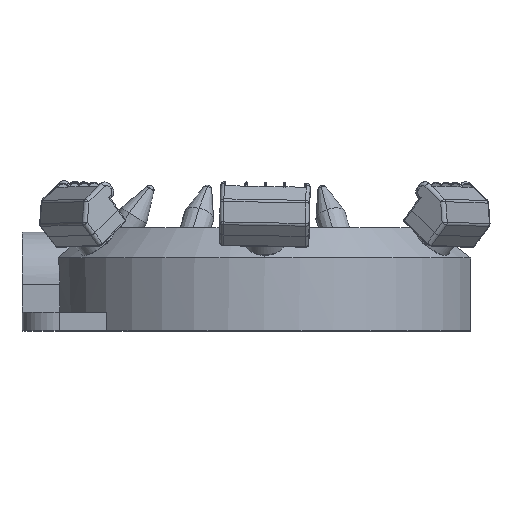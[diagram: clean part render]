
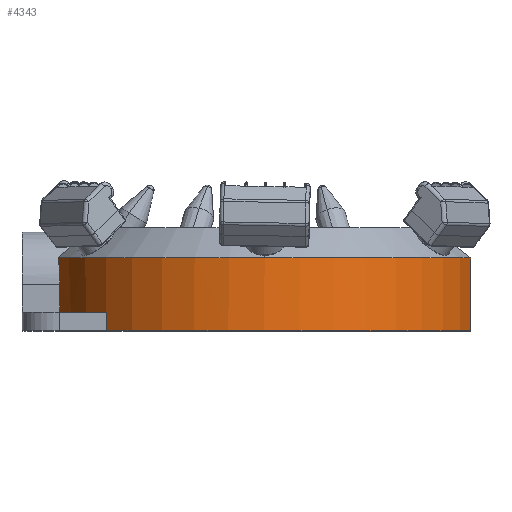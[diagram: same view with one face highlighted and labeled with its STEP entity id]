
A CAD part, top view. The second image highlights one B-rep face of the part: STEP entity #4343.
In plain terms, the highlighted cylindrical face has radius 56.6 mm (diameter 113.2 mm), a partial arc.
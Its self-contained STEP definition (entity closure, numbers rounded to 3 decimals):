
#4233 = VERTEX_POINT ( 'NONE', #34398 ) ;
#4235 = EDGE_CURVE ( 'NONE', #4236, #4233, #34397, .T. ) ;
#4236 = VERTEX_POINT ( 'NONE', #34392 ) ;
#4278 = VERTEX_POINT ( 'NONE', #34513 ) ;
#4280 = EDGE_CURVE ( 'NONE', #4233, #4278, #34550, .T. ) ;
#4326 = ORIENTED_EDGE ( 'NONE', *, *, #4235, .T. ) ;
#4327 = ORIENTED_EDGE ( 'NONE', *, *, #4280, .T. ) ;
#4328 = ORIENTED_EDGE ( 'NONE', *, *, #4329, .T. ) ;
#4329 = EDGE_CURVE ( 'NONE', #4278, #4330, #34728, .T. ) ;
#4330 = VERTEX_POINT ( 'NONE', #34727 ) ;
#4331 = ORIENTED_EDGE ( 'NONE', *, *, #4332, .T. ) ;
#4332 = EDGE_CURVE ( 'NONE', #4330, #4333, #34726, .T. ) ;
#4333 = VERTEX_POINT ( 'NONE', #34714 ) ;
#4334 = ORIENTED_EDGE ( 'NONE', *, *, #4335, .F. ) ;
#4335 = EDGE_CURVE ( 'NONE', #4348, #4333, #34712, .T. ) ;
#4343 = ADVANCED_FACE ( 'NONE', ( #34700 ), #34701, .T. ) ;
#4344 = EDGE_LOOP ( 'NONE', ( #4345, #4349, #4352, #4326, #4327, #4328, #4331, #4334 ) ) ;
#4345 = ORIENTED_EDGE ( 'NONE', *, *, #4346, .F. ) ;
#4346 = EDGE_CURVE ( 'NONE', #4347, #4348, #34742, .T. ) ;
#4347 = VERTEX_POINT ( 'NONE', #34738 ) ;
#4348 = VERTEX_POINT ( 'NONE', #34737 ) ;
#4349 = ORIENTED_EDGE ( 'NONE', *, *, #4350, .F. ) ;
#4350 = EDGE_CURVE ( 'NONE', #4351, #4347, #34736, .T. ) ;
#4351 = VERTEX_POINT ( 'NONE', #34731 ) ;
#4352 = ORIENTED_EDGE ( 'NONE', *, *, #4353, .T. ) ;
#4353 = EDGE_CURVE ( 'NONE', #4351, #4236, #34730, .T. ) ;
#34392 = CARTESIAN_POINT ( 'NONE',  ( 84.847, 8.679, -2.091 ) ) ;
#34393 = DIRECTION ( 'NONE',  ( 0., 0., -1. ) ) ;
#34394 = DIRECTION ( 'NONE',  ( 0., -1., 0. ) ) ;
#34395 = CARTESIAN_POINT ( 'NONE',  ( 29.76, 8.679, -15.091 ) ) ;
#34396 = AXIS2_PLACEMENT_3D ( 'NONE', #34395, #34394, #34393 ) ;
#34397 = CIRCLE ( 'NONE', #34396, 56.6 ) ;
#34398 = CARTESIAN_POINT ( 'NONE',  ( 29.76, 8.679, 41.509 ) ) ;
#34513 = CARTESIAN_POINT ( 'NONE',  ( -25.531, 8.679, -2.988 ) ) ;
#34546 = DIRECTION ( 'NONE',  ( 0., 0., -1. ) ) ;
#34547 = DIRECTION ( 'NONE',  ( 0., -1., 0. ) ) ;
#34548 = CARTESIAN_POINT ( 'NONE',  ( 29.76, 8.679, -15.091 ) ) ;
#34549 = AXIS2_PLACEMENT_3D ( 'NONE', #34548, #34547, #34546 ) ;
#34550 = CIRCLE ( 'NONE', #34549, 56.6 ) ;
#34700 = FACE_OUTER_BOUND ( 'NONE', #4344, .T. ) ;
#34701 = CYLINDRICAL_SURFACE ( 'NONE', #34766, 56.6 ) ;
#34708 = DIRECTION ( 'NONE',  ( 0., 0., -1. ) ) ;
#34709 = DIRECTION ( 'NONE',  ( 0., -1., 0. ) ) ;
#34710 = CARTESIAN_POINT ( 'NONE',  ( 29.76, -5.833, -15.091 ) ) ;
#34711 = AXIS2_PLACEMENT_3D ( 'NONE', #34710, #34709, #34708 ) ;
#34712 = CIRCLE ( 'NONE', #34711, 56.6 ) ;
#34714 = CARTESIAN_POINT ( 'NONE',  ( -25.081, -5.833, -1.091 ) ) ;
#34715 = DIRECTION ( 'NONE',  ( 0., -1., 0. ) ) ;
#34716 = VECTOR ( 'NONE', #34715, 1000. ) ;
#34717 = CARTESIAN_POINT ( 'NONE',  ( -25.081, -10.833, -1.091 ) ) ;
#34718 = CARTESIAN_POINT ( 'NONE',  ( -25.081, 1.642, -1.091 ) ) ;
#34719 = CARTESIAN_POINT ( 'NONE',  ( -25.081, 2.263, -1.091 ) ) ;
#34720 = CARTESIAN_POINT ( 'NONE',  ( -25.092, 2.879, -1.132 ) ) ;
#34721 = CARTESIAN_POINT ( 'NONE',  ( -25.133, 4.102, -1.295 ) ) ;
#34722 = CARTESIAN_POINT ( 'NONE',  ( -25.164, 4.712, -1.418 ) ) ;
#34723 = CARTESIAN_POINT ( 'NONE',  ( -25.282, 6.488, -1.899 ) ) ;
#34724 = CARTESIAN_POINT ( 'NONE',  ( -25.395, 7.613, -2.368 ) ) ;
#34725 = CARTESIAN_POINT ( 'NONE',  ( -25.531, 8.679, -2.988 ) ) ;
#34726 = LINE ( 'NONE', #34717, #34716 ) ;
#34727 = CARTESIAN_POINT ( 'NONE',  ( -25.081, 1.642, -1.091 ) ) ;
#34728 = B_SPLINE_CURVE_WITH_KNOTS ( 'NONE', 3,
 ( #34725, #34724, #34723, #34722, #34721, #34720, #34719, #34718 ),
 .UNSPECIFIED., .F., .F.,
 ( 4, 2, 2, 4 ),
 ( 0., 0.004, 0.006, 0.007 ),
 .UNSPECIFIED. ) ;
#34729 = CARTESIAN_POINT ( 'NONE',  ( 84.847, -10.833, -2.091 ) ) ;
#34730 = LINE ( 'NONE', #34729, #34796 ) ;
#34731 = CARTESIAN_POINT ( 'NONE',  ( 84.847, -10.833, -2.091 ) ) ;
#34732 = DIRECTION ( 'NONE',  ( 0., 0., -1. ) ) ;
#34733 = DIRECTION ( 'NONE',  ( 0., -1., 0. ) ) ;
#34734 = CARTESIAN_POINT ( 'NONE',  ( 29.76, -10.833, -15.091 ) ) ;
#34735 = AXIS2_PLACEMENT_3D ( 'NONE', #34734, #34733, #34732 ) ;
#34736 = CIRCLE ( 'NONE', #34735, 56.6 ) ;
#34737 = CARTESIAN_POINT ( 'NONE',  ( -12.635, -5.833, 22.409 ) ) ;
#34738 = CARTESIAN_POINT ( 'NONE',  ( -12.635, -10.833, 22.409 ) ) ;
#34739 = DIRECTION ( 'NONE',  ( 0., 1., 0. ) ) ;
#34740 = VECTOR ( 'NONE', #34739, 1000. ) ;
#34741 = CARTESIAN_POINT ( 'NONE',  ( -12.635, -10.833, 22.409 ) ) ;
#34742 = LINE ( 'NONE', #34741, #34740 ) ;
#34763 = DIRECTION ( 'NONE',  ( 0., 0., -1. ) ) ;
#34764 = DIRECTION ( 'NONE',  ( 0., -1., 0. ) ) ;
#34765 = CARTESIAN_POINT ( 'NONE',  ( 29.76, -10.833, -15.091 ) ) ;
#34766 = AXIS2_PLACEMENT_3D ( 'NONE', #34765, #34764, #34763 ) ;
#34795 = DIRECTION ( 'NONE',  ( 0., 1., 0. ) ) ;
#34796 = VECTOR ( 'NONE', #34795, 1000. ) ;
